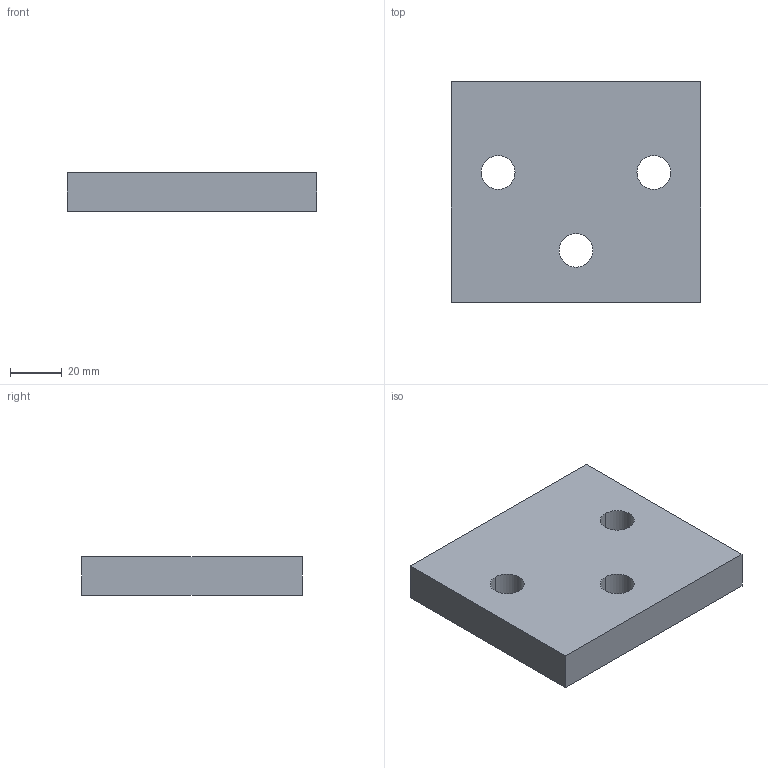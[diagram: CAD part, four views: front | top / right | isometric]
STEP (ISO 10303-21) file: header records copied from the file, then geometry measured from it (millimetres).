
FILE_DESCRIPTION((''),'2;1');
FILE_NAME('','2010-09-07T14:33:11+09:00',('misumi'),(''),'M/STEP i/f 1R2-14','CADmeister v5.1','');
FILE_SCHEMA(('AUTOMOTIVE_DESIGN'));
Length unit declared in the file: millimetre
Products named in the file (1): KEPNP100-15
Bounding box: 96 x 85 x 15 mm (x, y, z)
Volume: 116427 mm3; surface area: 22791.4 mm2
Topology: 1 solids, 1 shells, 12 faces, 30 edges, 20 vertices
Faces by surface type: plane 6, cylinder 6
Entity records: 464 total; most frequent: DIRECTION 68, CARTESIAN_POINT 63, ORIENTED_EDGE 60, EDGE_CURVE 30, AXIS2_PLACEMENT_3D 25, VERTEX_POINT 20, LINE 18, VECTOR 18
